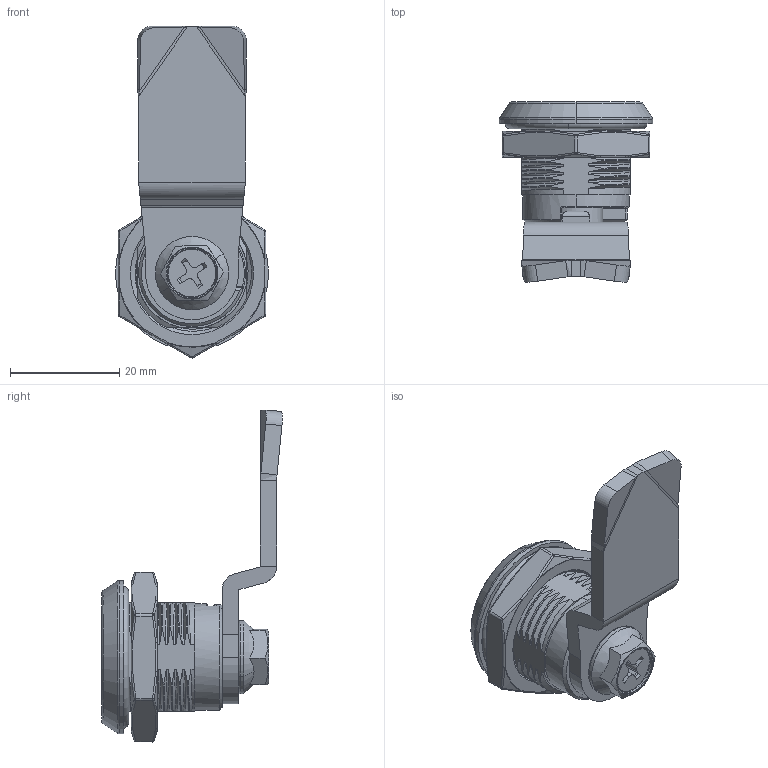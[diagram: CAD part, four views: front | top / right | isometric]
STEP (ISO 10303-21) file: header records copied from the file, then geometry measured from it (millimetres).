
FILE_DESCRIPTION (( 'STEP AP214' ), '1' );
FILE_NAME ('CUYUE.D1-1401-024.STEP', '2026-06-16T06:22:56', ( '' ), ( '' ), 'SwSTEP 2.0', 'SolidWorks 2020', '' );
FILE_SCHEMA (( 'AUTOMOTIVE_DESIGN' ));
Length unit declared in the file: millimetre
Products named in the file (9): 2X26密封圈; M6X8蹟隊; CUYUE.D1-1401-024; 10.2X0.3等疏え; J-M22蹟譫; 2X16密封圈; D1-1401-024坶郋; D1-1401-013坶褲; CAM4507
Assembly tree (9 placements, depth 2):
  CUYUE.D1-1401-024
    D1-1401-013坶褲
    2X16密封圈  x2
    2X26密封圈
    10.2X0.3等疏え
    M6X8蹟隊
    D1-1401-024坶郋
    J-M22蹟譫
    CAM4507
Bounding box: 28 x 33.01 x 60.66 mm (x, y, z)
Volume: 12492 mm3; surface area: 11475.9 mm2
Topology: 9 solids, 9 shells, 531 faces, 1352 edges, 841 vertices
Faces by surface type: bspline 189, cylinder 159, plane 106, cone 44, torus 33
Entity records: 53176 total; most frequent: CARTESIAN_POINT 42006, ORIENTED_EDGE 2684, DIRECTION 1699, EDGE_CURVE 1342, VERTEX_POINT 837, AXIS2_PLACEMENT_3D 649, EDGE_LOOP 545, ADVANCED_FACE 527
